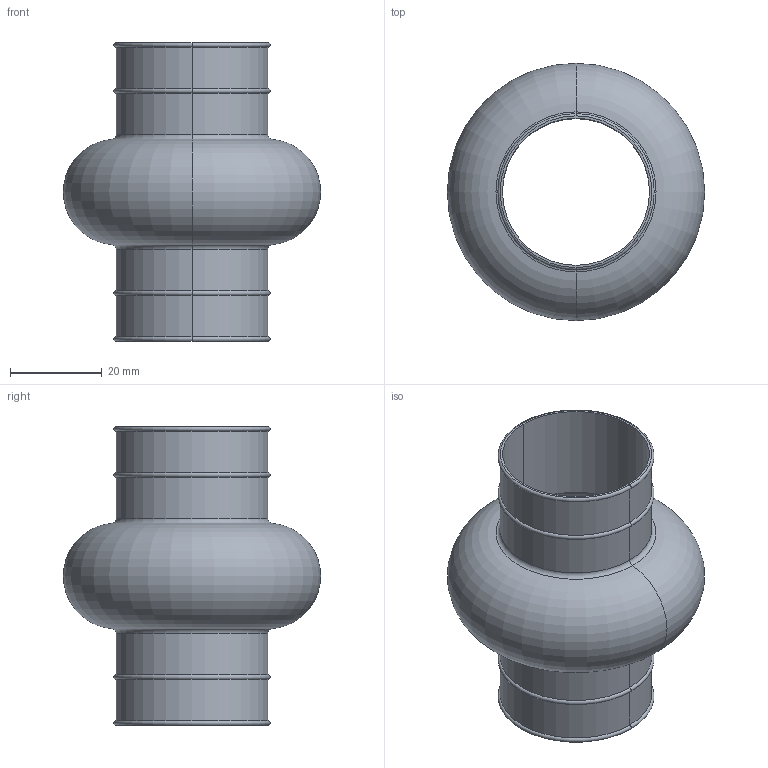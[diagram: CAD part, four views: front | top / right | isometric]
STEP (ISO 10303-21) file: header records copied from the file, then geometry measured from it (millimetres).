
FILE_DESCRIPTION (( 'STEP AP203' ), '1' );
FILE_NAME ('65280.W0032.step', '2018-06-20T18:12:07', ( '' ), ( '' ), 'SwSTEP 2.0', 'SolidWorks 2017', '' );
FILE_SCHEMA (( 'CONFIG_CONTROL_DESIGN' ));
Length unit declared in the file: millimetre
Products named in the file (1): 65280.W0032
Bounding box: 56 x 56 x 65 mm (x, y, z)
Volume: 5027.6 mm3; surface area: 19563.5 mm2
Topology: 1 solids, 1 shells, 30 faces, 60 edges, 32 vertices
Faces by surface type: torus 16, cylinder 12, plane 2
Entity records: 861 total; most frequent: DIRECTION 170, CARTESIAN_POINT 123, ORIENTED_EDGE 120, AXIS2_PLACEMENT_3D 79, EDGE_CURVE 60, CIRCLE 48, VERTEX_POINT 32, EDGE_LOOP 32
